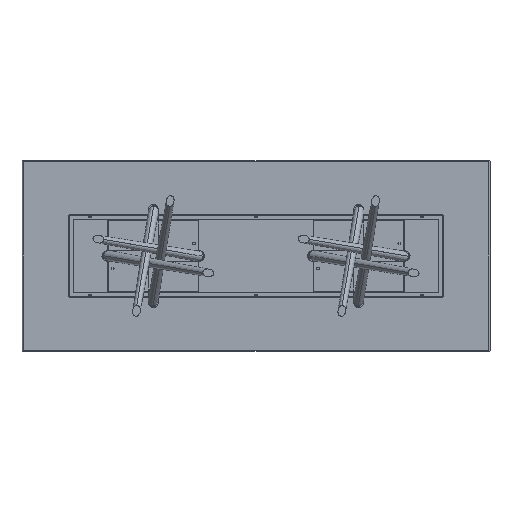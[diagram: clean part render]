
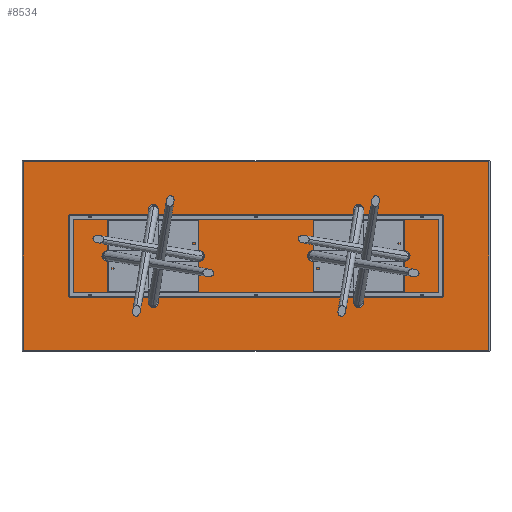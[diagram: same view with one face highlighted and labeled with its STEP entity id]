
A CAD part, front view. The second image highlights one B-rep face of the part: STEP entity #8534.
In plain terms, the highlighted planar face has unit normal (0, -1, 0).
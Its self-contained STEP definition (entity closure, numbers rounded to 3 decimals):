
#220 = ORIENTED_EDGE ( 'NONE', *, *, #5936, .T. ) ;
#251 = ORIENTED_EDGE ( 'NONE', *, *, #3796, .T. ) ;
#1901 = VERTEX_POINT ( 'NONE', #5965 ) ;
#2260 = ORIENTED_EDGE ( 'NONE', *, *, #4095, .T. ) ;
#2321 = DIRECTION ( 'NONE',  ( 0., 0., 1. ) ) ;
#2425 = EDGE_LOOP ( 'NONE', ( #220, #7280, #251, #2260 ) ) ;
#2539 = VERTEX_POINT ( 'NONE', #11357 ) ;
#2615 = CARTESIAN_POINT ( 'NONE',  ( -1587., 0., 642. ) ) ;
#3069 = VECTOR ( 'NONE', #7353, 1000. ) ;
#3259 = FACE_OUTER_BOUND ( 'NONE', #2425, .T. ) ;
#3499 = CARTESIAN_POINT ( 'NONE',  ( 0., 0., 642. ) ) ;
#3678 = LINE ( 'NONE', #7723, #7847 ) ;
#3796 = EDGE_CURVE ( 'NONE', #9578, #2539, #8155, .T. ) ;
#3838 = CARTESIAN_POINT ( 'NONE',  ( 0., 0., -642. ) ) ;
#4095 = EDGE_CURVE ( 'NONE', #2539, #9762, #7690, .T. ) ;
#4433 = LINE ( 'NONE', #3499, #3069 ) ;
#4725 = VECTOR ( 'NONE', #12969, 1000. ) ;
#5120 = PLANE ( 'NONE',  #8222 ) ;
#5936 = EDGE_CURVE ( 'NONE', #9762, #1901, #3678, .T. ) ;
#5965 = CARTESIAN_POINT ( 'NONE',  ( 1587., 0., 642. ) ) ;
#6172 = DIRECTION ( 'NONE',  ( 0., 0., -1. ) ) ;
#6408 = VECTOR ( 'NONE', #6172, 1000. ) ;
#6801 = DIRECTION ( 'NONE',  ( 0., 0., 1. ) ) ;
#7280 = ORIENTED_EDGE ( 'NONE', *, *, #12088, .T. ) ;
#7353 = DIRECTION ( 'NONE',  ( -1., 0., 0. ) ) ;
#7690 = LINE ( 'NONE', #3838, #4725 ) ;
#7723 = CARTESIAN_POINT ( 'NONE',  ( 1587., 0., 0. ) ) ;
#7847 = VECTOR ( 'NONE', #6801, 1000. ) ;
#8155 = LINE ( 'NONE', #11231, #6408 ) ;
#8222 = AXIS2_PLACEMENT_3D ( 'NONE', #9166, #12441, #2321 ) ;
#8534 = ADVANCED_FACE ( 'NONE', ( #3259 ), #5120, .F. ) ;
#8994 = CARTESIAN_POINT ( 'NONE',  ( 1587., 0., -642. ) ) ;
#9166 = CARTESIAN_POINT ( 'NONE',  ( 0., 0., 0. ) ) ;
#9578 = VERTEX_POINT ( 'NONE', #2615 ) ;
#9762 = VERTEX_POINT ( 'NONE', #8994 ) ;
#11231 = CARTESIAN_POINT ( 'NONE',  ( -1587., 0., 0. ) ) ;
#11357 = CARTESIAN_POINT ( 'NONE',  ( -1587., 0., -642. ) ) ;
#12088 = EDGE_CURVE ( 'NONE', #1901, #9578, #4433, .T. ) ;
#12441 = DIRECTION ( 'NONE',  ( 0., 1., 0. ) ) ;
#12969 = DIRECTION ( 'NONE',  ( 1., 0., 0. ) ) ;
